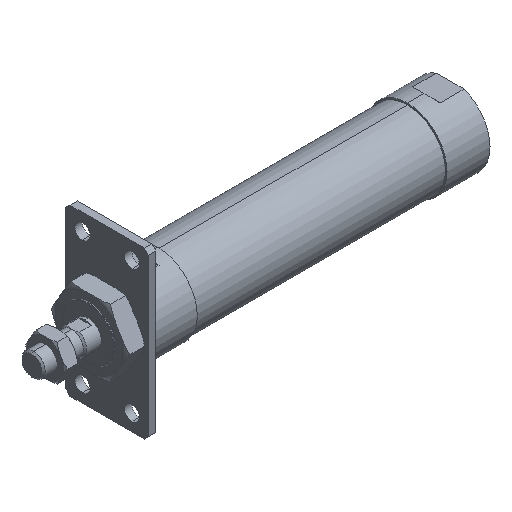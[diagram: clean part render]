
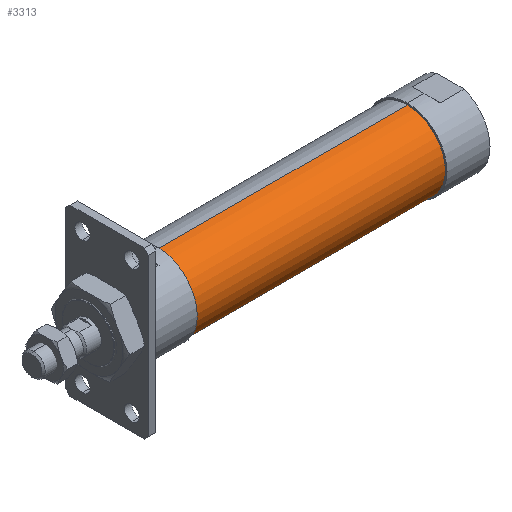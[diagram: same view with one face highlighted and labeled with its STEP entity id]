
A CAD part, isometric view. The second image highlights one B-rep face of the part: STEP entity #3313.
In plain terms, the highlighted cylindrical face has radius 23 mm (diameter 46 mm), a partial arc.
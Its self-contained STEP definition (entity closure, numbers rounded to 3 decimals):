
#81 = EDGE_CURVE ( 'NONE', #4090, #3293, #2275, .T. ) ;
#138 = FACE_OUTER_BOUND ( 'NONE', #3225, .T. ) ;
#154 = AXIS2_PLACEMENT_3D ( 'NONE', #3618, #1424, #194 ) ;
#194 = DIRECTION ( 'NONE',  ( 0., 0., 1. ) ) ;
#233 = DIRECTION ( 'NONE',  ( -1., 0., 0. ) ) ;
#252 = DIRECTION ( 'NONE',  ( -1., 0., 0. ) ) ;
#548 = CARTESIAN_POINT ( 'NONE',  ( 227., 0., 0. ) ) ;
#775 = CYLINDRICAL_SURFACE ( 'NONE', #2918, 23. ) ;
#1180 = AXIS2_PLACEMENT_3D ( 'NONE', #548, #252, #2159 ) ;
#1312 = VECTOR ( 'NONE', #233, 1000. ) ;
#1402 = CARTESIAN_POINT ( 'NONE',  ( -1.784, 0., 0. ) ) ;
#1412 = CARTESIAN_POINT ( 'NONE',  ( 76., 0., 23. ) ) ;
#1424 = DIRECTION ( 'NONE',  ( -1., 0., 0. ) ) ;
#1482 = DIRECTION ( 'NONE',  ( 0., 0., 1. ) ) ;
#1729 = VERTEX_POINT ( 'NONE', #2055 ) ;
#1809 = CARTESIAN_POINT ( 'NONE',  ( -1.784, 0., -23. ) ) ;
#1817 = CIRCLE ( 'NONE', #1180, 23. ) ;
#1926 = VECTOR ( 'NONE', #3222, 1000. ) ;
#2055 = CARTESIAN_POINT ( 'NONE',  ( 227., 0., -23. ) ) ;
#2110 = CIRCLE ( 'NONE', #154, 23. ) ;
#2129 = ORIENTED_EDGE ( 'NONE', *, *, #3859, .F. ) ;
#2159 = DIRECTION ( 'NONE',  ( 0., 0., 1. ) ) ;
#2275 = LINE ( 'NONE', #2588, #1926 ) ;
#2588 = CARTESIAN_POINT ( 'NONE',  ( -1.784, 0., 23. ) ) ;
#2802 = EDGE_CURVE ( 'NONE', #1729, #4090, #1817, .T. ) ;
#2839 = CARTESIAN_POINT ( 'NONE',  ( 227., 0., 23. ) ) ;
#2918 = AXIS2_PLACEMENT_3D ( 'NONE', #1402, #3361, #1482 ) ;
#2968 = CARTESIAN_POINT ( 'NONE',  ( 76., 0., -23. ) ) ;
#3222 = DIRECTION ( 'NONE',  ( -1., 0., 0. ) ) ;
#3225 = EDGE_LOOP ( 'NONE', ( #3523, #3403, #3244, #2129 ) ) ;
#3244 = ORIENTED_EDGE ( 'NONE', *, *, #81, .T. ) ;
#3293 = VERTEX_POINT ( 'NONE', #1412 ) ;
#3313 = ADVANCED_FACE ( 'NONE', ( #138 ), #775, .T. ) ;
#3361 = DIRECTION ( 'NONE',  ( -1., 0., 0. ) ) ;
#3392 = EDGE_CURVE ( 'NONE', #1729, #3395, #3530, .T. ) ;
#3395 = VERTEX_POINT ( 'NONE', #2968 ) ;
#3403 = ORIENTED_EDGE ( 'NONE', *, *, #2802, .T. ) ;
#3523 = ORIENTED_EDGE ( 'NONE', *, *, #3392, .F. ) ;
#3530 = LINE ( 'NONE', #1809, #1312 ) ;
#3618 = CARTESIAN_POINT ( 'NONE',  ( 76., 0., 0. ) ) ;
#3859 = EDGE_CURVE ( 'NONE', #3395, #3293, #2110, .T. ) ;
#4090 = VERTEX_POINT ( 'NONE', #2839 ) ;
